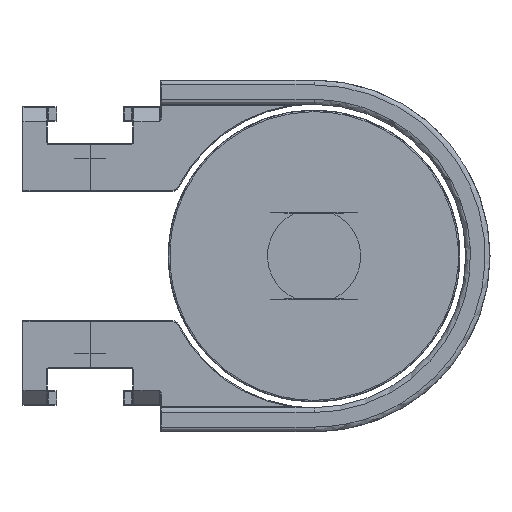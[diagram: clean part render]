
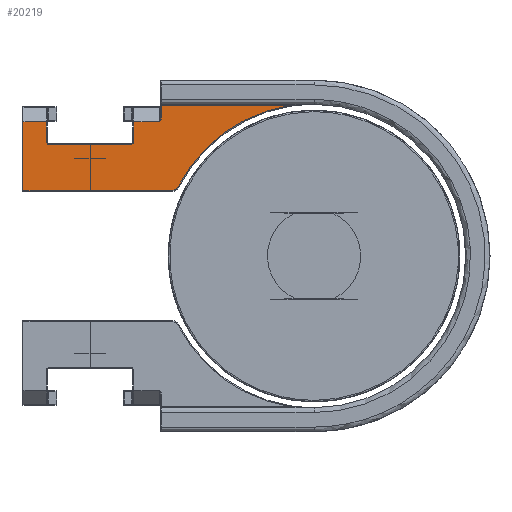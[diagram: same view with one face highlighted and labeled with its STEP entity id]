
A CAD part, left-side view. The second image highlights one B-rep face of the part: STEP entity #20219.
In plain terms, the highlighted planar face has unit normal (-1, 0, 0) as drawn and (0, 0, -1) by its records, which use the part's own axes.
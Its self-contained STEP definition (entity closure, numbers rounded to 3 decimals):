
#135 = EDGE_LOOP ( 'NONE', ( #23933, #13109, #48603, #39958, #27684, #8929, #13756, #50890, #15481, #35595, #19792, #35601, #18678, #53738 ) ) ;
#373 = CARTESIAN_POINT ( 'NONE',  ( 11.45, -18.633, -13.8 ) ) ;
#1077 = PLANE ( 'NONE',  #36293 ) ;
#1444 = CARTESIAN_POINT ( 'NONE',  ( 15.5, -2.498, -13.8 ) ) ;
#1522 = CARTESIAN_POINT ( 'NONE',  ( 0., -29.95, -13.8 ) ) ;
#3394 = CARTESIAN_POINT ( 'NONE',  ( 0., -18.55, -13.8 ) ) ;
#3995 = EDGE_CURVE ( 'NONE', #42711, #53850, #45013, .T. ) ;
#4243 = CARTESIAN_POINT ( 'NONE',  ( 11.65, -27.55, -13.8 ) ) ;
#5386 = CARTESIAN_POINT ( 'NONE',  ( 11.707, -11.631, -13.8 ) ) ;
#5564 = EDGE_CURVE ( 'NONE', #26251, #19402, #23709, .T. ) ;
#6231 = EDGE_CURVE ( 'NONE', #36695, #45902, #52341, .T. ) ;
#6574 = CARTESIAN_POINT ( 'NONE',  ( 11.45, -27.35, -13.8 ) ) ;
#7374 = DIRECTION ( 'NONE',  ( 0., 0., 1. ) ) ;
#7861 = CARTESIAN_POINT ( 'NONE',  ( 15.5, -15.7, -13.8 ) ) ;
#8219 = LINE ( 'NONE', #31114, #21018 ) ;
#8483 = CARTESIAN_POINT ( 'NONE',  ( 13.809, -18.55, -13.8 ) ) ;
#8929 = ORIENTED_EDGE ( 'NONE', *, *, #26972, .F. ) ;
#10362 = CARTESIAN_POINT ( 'NONE',  ( 7.188, -13.958, -13.8 ) ) ;
#10535 = EDGE_CURVE ( 'NONE', #48471, #33859, #51970, .T. ) ;
#10644 = VECTOR ( 'NONE', #40489, 1000. ) ;
#12167 = DIRECTION ( 'NONE',  ( 1., 0., 0. ) ) ;
#13109 = ORIENTED_EDGE ( 'NONE', *, *, #22200, .F. ) ;
#13756 = ORIENTED_EDGE ( 'NONE', *, *, #10535, .F. ) ;
#14593 = EDGE_CURVE ( 'NONE', #53850, #48471, #19339, .T. ) ;
#15481 = ORIENTED_EDGE ( 'NONE', *, *, #3995, .F. ) ;
#15497 = VECTOR ( 'NONE', #37616, 1000. ) ;
#15782 = VERTEX_POINT ( 'NONE', #4243 ) ;
#16507 = CARTESIAN_POINT ( 'NONE',  ( 11.45, -27.467, -13.8 ) ) ;
#17864 = DIRECTION ( 'NONE',  ( 0., 1., 0. ) ) ;
#17898 = LINE ( 'NONE', #55374, #48858 ) ;
#18005 = CARTESIAN_POINT ( 'NONE',  ( 7.188, -13.958, -13.8 ) ) ;
#18470 = CARTESIAN_POINT ( 'NONE',  ( 13.944, -15.722, -13.8 ) ) ;
#18678 = ORIENTED_EDGE ( 'NONE', *, *, #20808, .F. ) ;
#18996 = EDGE_CURVE ( 'NONE', #15782, #41266, #24778, .T. ) ;
#19339 = LINE ( 'NONE', #1522, #19632 ) ;
#19402 = VERTEX_POINT ( 'NONE', #38503 ) ;
#19632 = VECTOR ( 'NONE', #29261, 1000. ) ;
#19792 = ORIENTED_EDGE ( 'NONE', *, *, #6231, .F. ) ;
#20219 = ADVANCED_FACE ( 'NONE', ( #24004 ), #1077, .F. ) ;
#20242 = VERTEX_POINT ( 'NONE', #26352 ) ;
#20808 = EDGE_CURVE ( 'NONE', #20242, #30603, #17898, .T. ) ;
#21018 = VECTOR ( 'NONE', #17864, 1000. ) ;
#21032 = CARTESIAN_POINT ( 'NONE',  ( 11.65, -27.55, -13.8 ) ) ;
#22200 = EDGE_CURVE ( 'NONE', #41237, #26251, #53560, .T. ) ;
#22248 = DIRECTION ( 'NONE',  ( -1., 0., 0. ) ) ;
#22401 = CARTESIAN_POINT ( 'NONE',  ( 14.091, -15.7, -13.8 ) ) ;
#23709 = LINE ( 'NONE', #24016, #15497 ) ;
#23933 = ORIENTED_EDGE ( 'NONE', *, *, #5564, .F. ) ;
#24004 = FACE_OUTER_BOUND ( 'NONE', #135, .T. ) ;
#24016 = CARTESIAN_POINT ( 'NONE',  ( 13.809, 0., -13.8 ) ) ;
#24531 = CARTESIAN_POINT ( 'NONE',  ( 6.7, -14.758, -13.8 ) ) ;
#24778 =( BOUNDED_CURVE ( )  B_SPLINE_CURVE ( 3, ( #21032, #57901, #16507, #6574 ),
 .UNSPECIFIED., .F., .F. ) 
 B_SPLINE_CURVE_WITH_KNOTS ( ( 4, 4 ),
 ( 0., 1. ),
 .UNSPECIFIED. ) 
 CURVE ( )  GEOMETRIC_REPRESENTATION_ITEM ( )  RATIONAL_B_SPLINE_CURVE ( ( 1., 0.805, 0.805, 1. ) ) 
 REPRESENTATION_ITEM ( '' )  );
#26251 = VERTEX_POINT ( 'NONE', #8483 ) ;
#26352 = CARTESIAN_POINT ( 'NONE',  ( 14.091, -15.7, -13.8 ) ) ;
#26972 = EDGE_CURVE ( 'NONE', #33859, #15782, #54606, .T. ) ;
#27684 = ORIENTED_EDGE ( 'NONE', *, *, #18996, .F. ) ;
#27847 = CARTESIAN_POINT ( 'NONE',  ( 11.45, -18.75, -13.8 ) ) ;
#27857 = CARTESIAN_POINT ( 'NONE',  ( 11.45, -27.35, -13.8 ) ) ;
#28678 = CARTESIAN_POINT ( 'NONE',  ( 13.809, 0., -13.8 ) ) ;
#28720 = LINE ( 'NONE', #55137, #37486 ) ;
#28763 = CARTESIAN_POINT ( 'NONE',  ( 6.88, -14.116, -13.8 ) ) ;
#29261 = DIRECTION ( 'NONE',  ( 1., 0., 0. ) ) ;
#29660 = VECTOR ( 'NONE', #12167, 1000. ) ;
#30581 = DIRECTION ( 'NONE',  ( 1., 0., 0. ) ) ;
#30603 = VERTEX_POINT ( 'NONE', #7861 ) ;
#30896 = B_SPLINE_CURVE_WITH_KNOTS ( 'NONE', 3,
 ( #46559, #50820, #40807, #18470, #31750, #22401 ),
 .UNSPECIFIED., .F., .F.,
 ( 4, 2, 4 ),
 ( 0., 0.5, 1. ),
 .UNSPECIFIED. ) ;
#31114 = CARTESIAN_POINT ( 'NONE',  ( 11.45, 0., -13.8 ) ) ;
#31750 = CARTESIAN_POINT ( 'NONE',  ( 14.017, -15.7, -13.8 ) ) ;
#32468 = VECTOR ( 'NONE', #22248, 1000. ) ;
#33859 = VERTEX_POINT ( 'NONE', #58433 ) ;
#34761 = CARTESIAN_POINT ( 'NONE',  ( 6.7, -14.412, -13.8 ) ) ;
#35595 = ORIENTED_EDGE ( 'NONE', *, *, #59480, .F. ) ;
#35601 = ORIENTED_EDGE ( 'NONE', *, *, #58492, .T. ) ;
#35911 = CARTESIAN_POINT ( 'NONE',  ( 15.5, -2.498, -13.8 ) ) ;
#36293 = AXIS2_PLACEMENT_3D ( 'NONE', #48722, #7374, #30581 ) ;
#36695 = VERTEX_POINT ( 'NONE', #35911 ) ;
#37486 = VECTOR ( 'NONE', #59627, 1000. ) ;
#37616 = DIRECTION ( 'NONE',  ( 0., 1., 0. ) ) ;
#37692 = CARTESIAN_POINT ( 'NONE',  ( 7.188, -13.958, -13.8 ) ) ;
#37785 = CARTESIAN_POINT ( 'NONE',  ( 11.45, -18.75, -13.8 ) ) ;
#38055 = VECTOR ( 'NONE', #51086, 1000. ) ;
#38503 = CARTESIAN_POINT ( 'NONE',  ( 13.809, -15.9, -13.8 ) ) ;
#39364 = EDGE_CURVE ( 'NONE', #19402, #20242, #30896, .T. ) ;
#39958 = ORIENTED_EDGE ( 'NONE', *, *, #57538, .F. ) ;
#40290 = VERTEX_POINT ( 'NONE', #27847 ) ;
#40489 = DIRECTION ( 'NONE',  ( 0., -1., 0. ) ) ;
#40807 = CARTESIAN_POINT ( 'NONE',  ( 13.839, -15.796, -13.8 ) ) ;
#41237 = VERTEX_POINT ( 'NONE', #50840 ) ;
#41266 = VERTEX_POINT ( 'NONE', #27857 ) ;
#42711 = VERTEX_POINT ( 'NONE', #51854 ) ;
#44366 =( BOUNDED_CURVE ( )  B_SPLINE_CURVE ( 3, ( #37785, #373, #51407, #55948 ),
 .UNSPECIFIED., .F., .F. ) 
 B_SPLINE_CURVE_WITH_KNOTS ( ( 4, 4 ),
 ( 0., 1. ),
 .UNSPECIFIED. ) 
 CURVE ( )  GEOMETRIC_REPRESENTATION_ITEM ( )  RATIONAL_B_SPLINE_CURVE ( ( 1., 0.805, 0.805, 1. ) ) 
 REPRESENTATION_ITEM ( '' )  );
#44471 = CARTESIAN_POINT ( 'NONE',  ( 13.809, -29.95, -13.8 ) ) ;
#45013 = LINE ( 'NONE', #58614, #10644 ) ;
#45223 = CARTESIAN_POINT ( 'NONE',  ( 6.7, -29.95, -13.8 ) ) ;
#45902 = VERTEX_POINT ( 'NONE', #18005 ) ;
#45992 = DIRECTION ( 'NONE',  ( 1., 0., 0. ) ) ;
#46559 = CARTESIAN_POINT ( 'NONE',  ( 13.809, -15.9, -13.8 ) ) ;
#48471 = VERTEX_POINT ( 'NONE', #44471 ) ;
#48603 = ORIENTED_EDGE ( 'NONE', *, *, #57588, .F. ) ;
#48722 = CARTESIAN_POINT ( 'NONE',  ( 0., 0., -13.8 ) ) ;
#48858 = VECTOR ( 'NONE', #45992, 1000. ) ;
#49430 = CARTESIAN_POINT ( 'NONE',  ( 0., -27.55, -13.8 ) ) ;
#50820 = CARTESIAN_POINT ( 'NONE',  ( 13.809, -15.847, -13.8 ) ) ;
#50840 = CARTESIAN_POINT ( 'NONE',  ( 11.65, -18.55, -13.8 ) ) ;
#50890 = ORIENTED_EDGE ( 'NONE', *, *, #14593, .F. ) ;
#51086 = DIRECTION ( 'NONE',  ( 0., 1., 0. ) ) ;
#51407 = CARTESIAN_POINT ( 'NONE',  ( 11.533, -18.55, -13.8 ) ) ;
#51854 = CARTESIAN_POINT ( 'NONE',  ( 6.7, -14.758, -13.8 ) ) ;
#51970 = LINE ( 'NONE', #28678, #38055 ) ;
#52341 =( BOUNDED_CURVE ( )  B_SPLINE_CURVE ( 3, ( #1444, #57017, #5386, #37692 ),
 .UNSPECIFIED., .F., .F. ) 
 B_SPLINE_CURVE_WITH_KNOTS ( ( 4, 4 ),
 ( 0., 1. ),
 .UNSPECIFIED. ) 
 CURVE ( )  GEOMETRIC_REPRESENTATION_ITEM ( )  RATIONAL_B_SPLINE_CURVE ( ( 1., 0.928, 0.928, 1. ) ) 
 REPRESENTATION_ITEM ( '' )  );
#53560 = LINE ( 'NONE', #3394, #29660 ) ;
#53738 = ORIENTED_EDGE ( 'NONE', *, *, #39364, .F. ) ;
#53850 = VERTEX_POINT ( 'NONE', #45223 ) ;
#54606 = LINE ( 'NONE', #49430, #32468 ) ;
#54847 =( BOUNDED_CURVE ( )  B_SPLINE_CURVE ( 3, ( #10362, #28763, #34761, #24531 ),
 .UNSPECIFIED., .F., .T. ) 
 B_SPLINE_CURVE_WITH_KNOTS ( ( 4, 4 ),
 ( 0., 1. ),
 .UNSPECIFIED. ) 
 CURVE ( )  GEOMETRIC_REPRESENTATION_ITEM ( )  RATIONAL_B_SPLINE_CURVE ( ( 1., 0.903, 0.903, 1. ) ) 
 REPRESENTATION_ITEM ( '' )  );
#55137 = CARTESIAN_POINT ( 'NONE',  ( 15.5, 0., -13.8 ) ) ;
#55374 = CARTESIAN_POINT ( 'NONE',  ( 0., -15.7, -13.8 ) ) ;
#55948 = CARTESIAN_POINT ( 'NONE',  ( 11.65, -18.55, -13.8 ) ) ;
#57017 = CARTESIAN_POINT ( 'NONE',  ( 14.691, -7.516, -13.8 ) ) ;
#57538 = EDGE_CURVE ( 'NONE', #41266, #40290, #8219, .T. ) ;
#57588 = EDGE_CURVE ( 'NONE', #40290, #41237, #44366, .T. ) ;
#57901 = CARTESIAN_POINT ( 'NONE',  ( 11.533, -27.55, -13.8 ) ) ;
#58433 = CARTESIAN_POINT ( 'NONE',  ( 13.809, -27.55, -13.8 ) ) ;
#58492 = EDGE_CURVE ( 'NONE', #36695, #30603, #28720, .T. ) ;
#58614 = CARTESIAN_POINT ( 'NONE',  ( 6.7, 0., -13.8 ) ) ;
#59480 = EDGE_CURVE ( 'NONE', #45902, #42711, #54847, .T. ) ;
#59627 = DIRECTION ( 'NONE',  ( 0., -1., 0. ) ) ;
